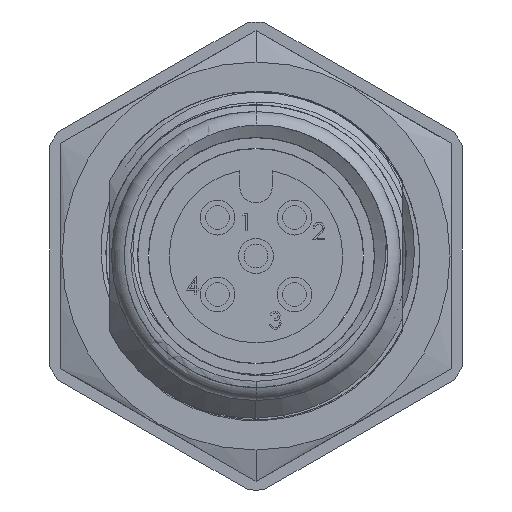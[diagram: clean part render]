
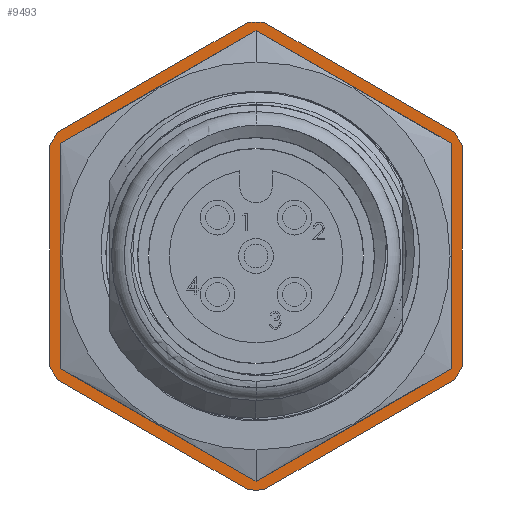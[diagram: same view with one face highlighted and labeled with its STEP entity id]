
A CAD part, left-side view. The second image highlights one B-rep face of the part: STEP entity #9493.
In plain terms, the highlighted planar face has unit normal (-1, 0, 0).
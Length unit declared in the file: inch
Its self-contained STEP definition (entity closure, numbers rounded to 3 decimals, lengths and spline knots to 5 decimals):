
#2444 = CARTESIAN_POINT ( 'NONE',  ( 0.61066, -0.375, 0.2 ) ) ;
#2801 = DIRECTION ( 'NONE',  ( 0., 0., 1. ) ) ;
#2802 = DIRECTION ( 'NONE',  ( -1., 0., 0. ) ) ;
#2803 = AXIS2_PLACEMENT_3D ( 'NONE', #2809, #2802, #2801 ) ;
#2804 = CIRCLE ( 'NONE', #2803, 0.425 ) ;
#2809 = CARTESIAN_POINT ( 'NONE',  ( 0.61066, 0., 0. ) ) ;
#3674 = DIRECTION ( 'NONE',  ( 0., 0., 1. ) ) ;
#3675 = DIRECTION ( 'NONE',  ( -1., 0., 0. ) ) ;
#3676 = CARTESIAN_POINT ( 'NONE',  ( 0.61066, 0., 0. ) ) ;
#3677 = AXIS2_PLACEMENT_3D ( 'NONE', #3676, #3675, #3674 ) ;
#3678 = CIRCLE ( 'NONE', #3677, 0.425 ) ;
#3680 = CARTESIAN_POINT ( 'NONE',  ( 0.61066, 0.01429, 0.42476 ) ) ;
#3769 = CARTESIAN_POINT ( 'NONE',  ( 0.61066, -0.01429, -0.42476 ) ) ;
#3856 = CARTESIAN_POINT ( 'NONE',  ( 0.61066, 0.36071, -0.22476 ) ) ;
#3857 = CARTESIAN_POINT ( 'NONE',  ( 0.61066, 0.36071, 0.22476 ) ) ;
#4434 = DIRECTION ( 'NONE',  ( 0., 0., 1. ) ) ;
#4435 = DIRECTION ( 'NONE',  ( -1., 0., 0. ) ) ;
#4436 = CARTESIAN_POINT ( 'NONE',  ( 0.61066, 0., 0. ) ) ;
#4437 = AXIS2_PLACEMENT_3D ( 'NONE', #4436, #4435, #4434 ) ;
#4438 = CIRCLE ( 'NONE', #4437, 0.425 ) ;
#4443 = CARTESIAN_POINT ( 'NONE',  ( 0.61066, 0., 0.33277 ) ) ;
#4444 = DIRECTION ( 'NONE',  ( 0., 0., 1. ) ) ;
#4445 = DIRECTION ( 'NONE',  ( -1., 0., 0. ) ) ;
#4446 = CARTESIAN_POINT ( 'NONE',  ( 0.61066, 0., 0. ) ) ;
#4447 = AXIS2_PLACEMENT_3D ( 'NONE', #4446, #4445, #4444 ) ;
#4448 = CIRCLE ( 'NONE', #4447, 0.33277 ) ;
#4453 = DIRECTION ( 'NONE',  ( 0., 0.866, -0.5 ) ) ;
#4454 = VECTOR ( 'NONE', #4453, 39.37008 ) ;
#4455 = CARTESIAN_POINT ( 'NONE',  ( 0.61066, -0.51773, 0.73192 ) ) ;
#4456 = LINE ( 'NONE', #4455, #4454 ) ;
#4457 = CARTESIAN_POINT ( 'NONE',  ( 0.61066, 0., -0.33277 ) ) ;
#4467 = CARTESIAN_POINT ( 'NONE',  ( 0.61066, 0.375, -0.2 ) ) ;
#4468 = DIRECTION ( 'NONE',  ( 0., 0., -1. ) ) ;
#4469 = VECTOR ( 'NONE', #4468, 39.37008 ) ;
#4470 = CARTESIAN_POINT ( 'NONE',  ( 0.61066, 0.375, 0. ) ) ;
#4471 = LINE ( 'NONE', #4470, #4469 ) ;
#4534 = CARTESIAN_POINT ( 'NONE',  ( 0.61066, 0.01429, -0.42476 ) ) ;
#4574 = DIRECTION ( 'NONE',  ( 0., -0.866, -0.5 ) ) ;
#4575 = VECTOR ( 'NONE', #4574, 39.37008 ) ;
#4576 = CARTESIAN_POINT ( 'NONE',  ( 0.61066, -0.51773, -0.73192 ) ) ;
#4577 = LINE ( 'NONE', #4576, #4575 ) ;
#4612 = DIRECTION ( 'NONE',  ( -1., 0., 0. ) ) ;
#4613 = CARTESIAN_POINT ( 'NONE',  ( 0.61066, 0., 0. ) ) ;
#4614 = AXIS2_PLACEMENT_3D ( 'NONE', #4613, #4612, #4705 ) ;
#4615 = CIRCLE ( 'NONE', #4614, 0.425 ) ;
#4616 = CARTESIAN_POINT ( 'NONE',  ( 0.61066, -0.36071, -0.22476 ) ) ;
#4617 = DIRECTION ( 'NONE',  ( -1., 0., 0. ) ) ;
#4618 = CARTESIAN_POINT ( 'NONE',  ( 0.61066, 0., 0. ) ) ;
#4619 = AXIS2_PLACEMENT_3D ( 'NONE', #4618, #4617, #4666 ) ;
#4620 = CIRCLE ( 'NONE', #4619, 0.425 ) ;
#4622 = CARTESIAN_POINT ( 'NONE',  ( 0.61066, 0.375, 0.2 ) ) ;
#4627 = CARTESIAN_POINT ( 'NONE',  ( 0.61066, -0.01429, 0.42476 ) ) ;
#4628 = CARTESIAN_POINT ( 'NONE',  ( 0.61066, 0., 0.425 ) ) ;
#4666 = DIRECTION ( 'NONE',  ( 0., 0., 1. ) ) ;
#4705 = DIRECTION ( 'NONE',  ( 0., 0., 1. ) ) ;
#4717 = DIRECTION ( 'NONE',  ( 0., 0.866, 0.5 ) ) ;
#4718 = VECTOR ( 'NONE', #4717, 39.37008 ) ;
#4719 = CARTESIAN_POINT ( 'NONE',  ( 0.61066, -0.89273, -0.0824 ) ) ;
#4726 = LINE ( 'NONE', #4719, #4718 ) ;
#4727 = CARTESIAN_POINT ( 'NONE',  ( 0.61066, -0.36071, 0.22476 ) ) ;
#4893 = CARTESIAN_POINT ( 'NONE',  ( 0.61066, 0., 0. ) ) ;
#4894 = AXIS2_PLACEMENT_3D ( 'NONE', #4893, #4987, #4986 ) ;
#4895 = CIRCLE ( 'NONE', #4894, 0.425 ) ;
#4986 = DIRECTION ( 'NONE',  ( 0., 0., 1. ) ) ;
#4987 = DIRECTION ( 'NONE',  ( -1., 0., 0. ) ) ;
#5794 = DIRECTION ( 'NONE',  ( 0., 0., 1. ) ) ;
#5795 = VECTOR ( 'NONE', #5794, 39.37008 ) ;
#5796 = CARTESIAN_POINT ( 'NONE',  ( 0.61066, -0.375, 0. ) ) ;
#5798 = LINE ( 'NONE', #5796, #5795 ) ;
#5810 = DIRECTION ( 'NONE',  ( 0., 0., 1. ) ) ;
#5811 = DIRECTION ( 'NONE',  ( -1., 0., 0. ) ) ;
#5812 = CARTESIAN_POINT ( 'NONE',  ( 0.61066, 0., 0. ) ) ;
#5813 = AXIS2_PLACEMENT_3D ( 'NONE', #5812, #5811, #5810 ) ;
#5814 = CIRCLE ( 'NONE', #5813, 0.425 ) ;
#5815 = CARTESIAN_POINT ( 'NONE',  ( 0.61066, -0.375, -0.2 ) ) ;
#5826 = DIRECTION ( 'NONE',  ( 0., -0.866, 0.5 ) ) ;
#5827 = VECTOR ( 'NONE', #5826, 39.37008 ) ;
#5828 = CARTESIAN_POINT ( 'NONE',  ( 0.61066, -0.89273, 0.0824 ) ) ;
#5829 = LINE ( 'NONE', #5828, #5827 ) ;
#5903 = DIRECTION ( 'NONE',  ( -1., 0., 0. ) ) ;
#5904 = AXIS2_PLACEMENT_3D ( 'NONE', #5912, #5903, #6036 ) ;
#5905 = CIRCLE ( 'NONE', #5904, 0.33277 ) ;
#5912 = CARTESIAN_POINT ( 'NONE',  ( 0.61066, 0., 0. ) ) ;
#5970 = DIRECTION ( 'NONE',  ( 0., 0., -1. ) ) ;
#5971 = DIRECTION ( 'NONE',  ( 1., 0., 0. ) ) ;
#5972 = CARTESIAN_POINT ( 'NONE',  ( 0.61066, 0.33277, 0. ) ) ;
#5973 = AXIS2_PLACEMENT_3D ( 'NONE', #5972, #5971, #5970 ) ;
#5974 = PLANE ( 'NONE',  #5973 ) ;
#6036 = DIRECTION ( 'NONE',  ( 0., 0., 1. ) ) ;
#6067 = FACE_OUTER_BOUND ( 'NONE', #9513, .T. ) ;
#6068 = FACE_BOUND ( 'NONE', #9507, .T. ) ;
#8366 = VERTEX_POINT ( 'NONE', #2444 ) ;
#8903 = EDGE_CURVE ( 'NONE', #9171, #9170, #2804, .T. ) ;
#9030 = VERTEX_POINT ( 'NONE', #3680 ) ;
#9032 = EDGE_CURVE ( 'NONE', #9170, #9030, #3678, .T. ) ;
#9035 = VERTEX_POINT ( 'NONE', #3857 ) ;
#9036 = VERTEX_POINT ( 'NONE', #3856 ) ;
#9041 = VERTEX_POINT ( 'NONE', #3769 ) ;
#9080 = EDGE_CURVE ( 'NONE', #9036, #9149, #4577, .T. ) ;
#9084 = EDGE_CURVE ( 'NONE', #9104, #9085, #4448, .T. ) ;
#9085 = VERTEX_POINT ( 'NONE', #4443 ) ;
#9089 = EDGE_CURVE ( 'NONE', #9097, #9036, #4438, .T. ) ;
#9096 = EDGE_CURVE ( 'NONE', #9174, #9097, #4471, .T. ) ;
#9097 = VERTEX_POINT ( 'NONE', #4467 ) ;
#9104 = VERTEX_POINT ( 'NONE', #4457 ) ;
#9106 = EDGE_CURVE ( 'NONE', #9030, #9035, #4456, .T. ) ;
#9149 = VERTEX_POINT ( 'NONE', #4534 ) ;
#9152 = VERTEX_POINT ( 'NONE', #4616 ) ;
#9156 = EDGE_CURVE ( 'NONE', #9149, #9041, #4615, .T. ) ;
#9163 = VERTEX_POINT ( 'NONE', #4727 ) ;
#9166 = EDGE_CURVE ( 'NONE', #9163, #9171, #4726, .T. ) ;
#9170 = VERTEX_POINT ( 'NONE', #4628 ) ;
#9171 = VERTEX_POINT ( 'NONE', #4627 ) ;
#9174 = VERTEX_POINT ( 'NONE', #4622 ) ;
#9176 = EDGE_CURVE ( 'NONE', #9035, #9174, #4620, .T. ) ;
#9271 = ORIENTED_EDGE ( 'NONE', *, *, #9032, .T. ) ;
#9273 = ORIENTED_EDGE ( 'NONE', *, *, #9459, .T. ) ;
#9274 = ORIENTED_EDGE ( 'NONE', *, *, #9467, .T. ) ;
#9275 = EDGE_CURVE ( 'NONE', #8366, #9163, #4895, .T. ) ;
#9448 = ORIENTED_EDGE ( 'NONE', *, *, #9449, .T. ) ;
#9449 = EDGE_CURVE ( 'NONE', #9465, #8366, #5798, .T. ) ;
#9450 = ORIENTED_EDGE ( 'NONE', *, *, #9275, .T. ) ;
#9451 = ORIENTED_EDGE ( 'NONE', *, *, #9080, .T. ) ;
#9452 = ORIENTED_EDGE ( 'NONE', *, *, #9156, .T. ) ;
#9455 = ORIENTED_EDGE ( 'NONE', *, *, #9096, .T. ) ;
#9456 = ORIENTED_EDGE ( 'NONE', *, *, #9089, .T. ) ;
#9459 = EDGE_CURVE ( 'NONE', #9041, #9152, #5829, .T. ) ;
#9465 = VERTEX_POINT ( 'NONE', #5815 ) ;
#9467 = EDGE_CURVE ( 'NONE', #9152, #9465, #5814, .T. ) ;
#9493 = ADVANCED_FACE ( 'NONE', ( #6068, #6067 ), #5974, .F. ) ;
#9505 = ORIENTED_EDGE ( 'NONE', *, *, #9106, .T. ) ;
#9507 = EDGE_LOOP ( 'NONE', ( #9517, #9512 ) ) ;
#9512 = ORIENTED_EDGE ( 'NONE', *, *, #9084, .F. ) ;
#9513 = EDGE_LOOP ( 'NONE', ( #9448, #9450, #9518, #9519, #9271, #9505, #9516, #9455, #9456, #9451, #9452, #9273, #9274 ) ) ;
#9514 = EDGE_CURVE ( 'NONE', #9085, #9104, #5905, .T. ) ;
#9516 = ORIENTED_EDGE ( 'NONE', *, *, #9176, .T. ) ;
#9517 = ORIENTED_EDGE ( 'NONE', *, *, #9514, .F. ) ;
#9518 = ORIENTED_EDGE ( 'NONE', *, *, #9166, .T. ) ;
#9519 = ORIENTED_EDGE ( 'NONE', *, *, #8903, .T. ) ;
